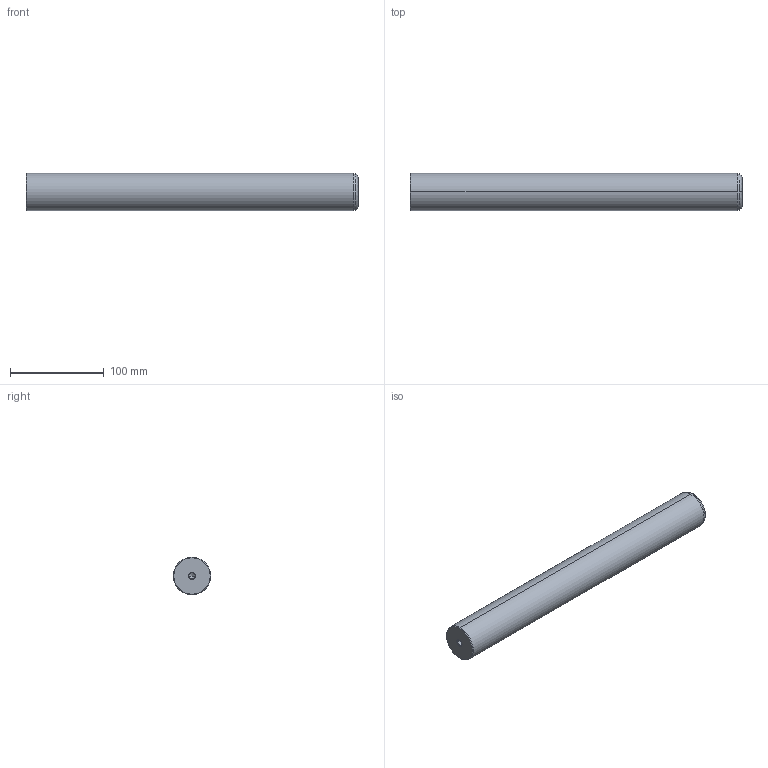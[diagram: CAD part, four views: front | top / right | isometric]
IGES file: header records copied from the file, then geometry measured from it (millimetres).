
Start section: START RECORD GO HERE.
Global section: file name: 720-40x355.igs; native system: DASSAULT SYSTEMES CATIA V5 R20 - www.3ds.com; preprocessor: CATIA Version 5 Release 20 ; author: Utente; organization: NB04-ASUS; date: 20201230.225624; units: millimetre
Bounding box: 355 x 40 x 40 mm (x, y, z)
Surface area: 47794.8 mm2 (no closed solid volume)
Topology: 0 solids, 0 shells, 22 faces, 120 edges, 116 vertices
Faces by surface type: revolution 20, plane 2
